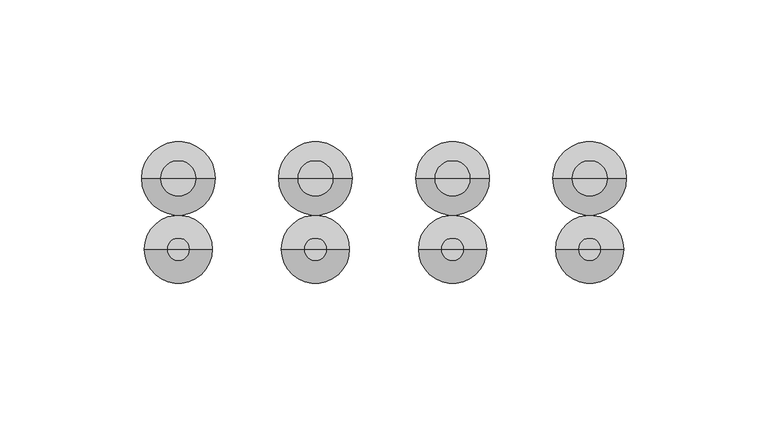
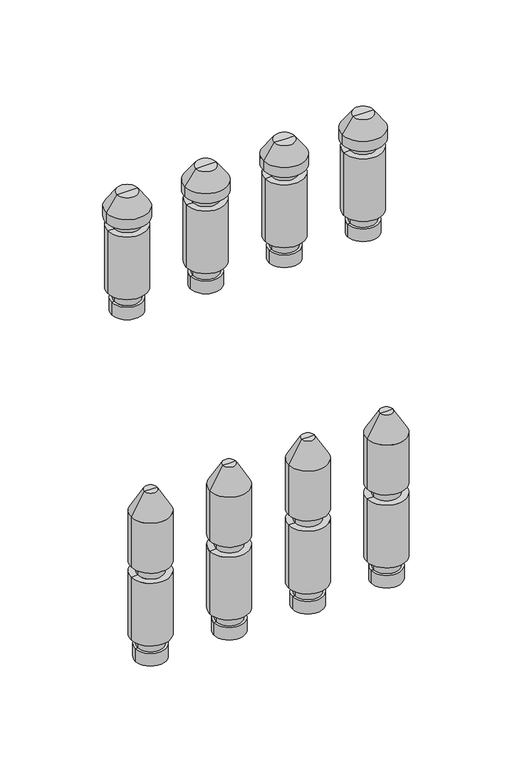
"""IFC4 building model written with IfcOpenShell, lengths in millimetres: valve geometry, PL AT_Manifold_FT-EV : 06 circuits."""

from ifc_helpers import new_model, si_unit, frame, origin, place, context, project, spatial, polyline, circle_curve, source, transform, mapped, element, save
from ifc_brep_helpers import plane_surface, cylinder_surface, revolved_surface, advanced_brep


def valve_0c7f9d95(model_context):
    return source(origin(), model_context, "Body", "AdvancedBrep", [
        advanced_brep(
        [(226.1, 0.0, -35.11267), (245.1, 0.0, -35.11267), (235.6, 0.0, -35.11267), (226.1, 0.0, -27.0369646), (245.1, 0.0, -27.0369646), (227.6, 0.0, -27.0369646), (243.6, 0.0, -27.0369646), (227.6, 0.0, -20.330253), (243.6, 0.0, -20.330253), (223.6, 0.0, -20.330253), (247.6, 0.0, -20.330253), (223.6, 0.0, 20.330253), (247.6, 0.0, 20.330253), (227.6, 0.0, 20.330253), (243.6, 0.0, 20.330253), (227.6, 0.0, 27.0474786), (243.6, 0.0, 27.0474786), (223.6, 0.0, 27.0474786), (247.6, 0.0, 27.0474786), (223.6, 0.0, 59.4084325), (247.6, 0.0, 59.4084325), (231.6, 0.0, 73.264839), (239.6, 0.0, 73.264839), (235.6, 0.0, 73.264839)],
        [
            (0, 1, circle_curve(frame((235.6, 0.0, -35.11267), z_axis=(0.0, 0.0, -1.0), x_axis=(1.0, 0.0, 0.0)), 9.5)),
            (1, 2),
            (2, 0),
            (1, 0, circle_curve(frame((235.6, 0.0, -35.11267), z_axis=(0.0, 0.0, -1.0), x_axis=(1.0, 0.0, 0.0)), 9.5)),
            (3, 4, circle_curve(frame((235.6, 0.0, -27.0369646), z_axis=(0.0, 0.0, -1.0), x_axis=(1.0, 0.0, 0.0)), 9.5)),
            (4, 1),
            (0, 3),
            (4, 3, circle_curve(frame((235.6, 0.0, -27.0369646), z_axis=(0.0, 0.0, -1.0), x_axis=(1.0, 0.0, 0.0)), 9.5)),
            (5, 6, circle_curve(frame((235.6, 0.0, -27.0369646), z_axis=(0.0, 0.0, -1.0), x_axis=(1.0, 0.0, 0.0)), 8.0)),
            (6, 4),
            (3, 5),
            (6, 5, circle_curve(frame((235.6, 0.0, -27.0369646), z_axis=(0.0, 0.0, -1.0), x_axis=(1.0, 0.0, 0.0)), 8.0)),
            (7, 8, circle_curve(frame((235.6, 0.0, -20.330253), z_axis=(0.0, 0.0, -1.0), x_axis=(1.0, 0.0, 0.0)), 8.0)),
            (8, 6),
            (5, 7),
            (8, 7, circle_curve(frame((235.6, 0.0, -20.330253), z_axis=(0.0, 0.0, -1.0), x_axis=(1.0, 0.0, 0.0)), 8.0)),
            (9, 10, circle_curve(frame((235.6, 0.0, -20.330253), z_axis=(0.0, 0.0, -1.0), x_axis=(1.0, 0.0, 0.0)), 12.0)),
            (10, 8),
            (7, 9),
            (10, 9, circle_curve(frame((235.6, 0.0, -20.330253), z_axis=(0.0, 0.0, -1.0), x_axis=(1.0, 0.0, 0.0)), 12.0)),
            (11, 12, circle_curve(frame((235.6, 0.0, 20.330253), z_axis=(0.0, 0.0, -1.0), x_axis=(1.0, 0.0, 0.0)), 12.0)),
            (12, 10),
            (9, 11),
            (12, 11, circle_curve(frame((235.6, 0.0, 20.330253), z_axis=(0.0, 0.0, -1.0), x_axis=(1.0, 0.0, 0.0)), 12.0)),
            (13, 14, circle_curve(frame((235.6, 0.0, 20.330253), z_axis=(0.0, 0.0, -1.0), x_axis=(1.0, 0.0, 0.0)), 8.0)),
            (14, 12),
            (11, 13),
            (14, 13, circle_curve(frame((235.6, 0.0, 20.330253), z_axis=(0.0, 0.0, -1.0), x_axis=(1.0, 0.0, 0.0)), 8.0)),
            (15, 16, circle_curve(frame((235.6, 0.0, 27.0474786), z_axis=(0.0, 0.0, -1.0), x_axis=(1.0, 0.0, 0.0)), 8.0)),
            (16, 14),
            (13, 15),
            (16, 15, circle_curve(frame((235.6, 0.0, 27.0474786), z_axis=(0.0, 0.0, -1.0), x_axis=(1.0, 0.0, 0.0)), 8.0)),
            (17, 18, circle_curve(frame((235.6, 0.0, 27.0474786), z_axis=(0.0, 0.0, -1.0), x_axis=(1.0, 0.0, 0.0)), 12.0)),
            (18, 16),
            (15, 17),
            (18, 17, circle_curve(frame((235.6, 0.0, 27.0474786), z_axis=(0.0, 0.0, -1.0), x_axis=(1.0, 0.0, 0.0)), 12.0)),
            (19, 20, circle_curve(frame((235.6, 0.0, 59.4084325), z_axis=(0.0, 0.0, -1.0), x_axis=(1.0, 0.0, 0.0)), 12.0)),
            (20, 18),
            (17, 19),
            (20, 19, circle_curve(frame((235.6, 0.0, 59.4084325), z_axis=(0.0, 0.0, -1.0), x_axis=(1.0, 0.0, 0.0)), 12.0)),
            (21, 22, circle_curve(frame((235.6, 0.0, 73.264839), z_axis=(0.0, 0.0, -1.0), x_axis=(1.0, 0.0, 0.0)), 4.0)),
            (22, 20),
            (19, 21),
            (22, 21, circle_curve(frame((235.6, 0.0, 73.264839), z_axis=(0.0, 0.0, -1.0), x_axis=(1.0, 0.0, 0.0)), 4.0)),
            (23, 22),
            (21, 23),
        ],
        [
            plane_surface(frame((235.6, 0.0, -35.11267), z_axis=(0.0, 0.0, -1.0), x_axis=(1.0, 0.0, 0.0))),
            cylinder_surface(frame((235.6, 0.0, 58.264839), z_axis=(0.0, 0.0, 1.0), x_axis=(1.0, 0.0, 0.0)), 9.5),
            plane_surface(frame((235.6, 0.0, -27.0369646), z_axis=(0.0, 0.0, 1.0), x_axis=(1.0, 0.0, 0.0))),
            cylinder_surface(frame((235.6, 0.0, 58.264839), z_axis=(0.0, 0.0, 1.0), x_axis=(1.0, 0.0, 0.0)), 8.0),
            plane_surface(frame((235.6, 0.0, -20.330253), z_axis=(0.0, 0.0, -1.0), x_axis=(1.0, 0.0, 0.0))),
            cylinder_surface(frame((235.6, 0.0, 58.264839), z_axis=(0.0, 0.0, 1.0), x_axis=(1.0, 0.0, 0.0)), 12.0),
            plane_surface(frame((235.6, 0.0, 20.330253), z_axis=(0.0, 0.0, 1.0), x_axis=(1.0, 0.0, 0.0))),
            plane_surface(frame((235.6, 0.0, 27.0474786), z_axis=(0.0, 0.0, -1.0), x_axis=(1.0, 0.0, 0.0))),
            revolved_surface(polyline([(247.6, 0.0, 59.4084325), (239.6, 0.0, 73.264839)]), (235.6, 0.0, 58.264839), (0.0, 0.0, 1.0)),
            plane_surface(frame((235.6, 0.0, 73.264839), z_axis=(0.0, 0.0, 1.0), x_axis=(1.0, 0.0, 0.0))),
        ],
        [
            (0, [[1, 2, 3]]),
            (0, [[4, -3, -2]]),
            (1, [[5, 6, -1, 7]]),
            (1, [[8, -7, -4, -6]]),
            (2, [[9, 10, -5, 11]]),
            (2, [[12, -11, -8, -10]]),
            (3, [[13, 14, -9, 15]]),
            (3, [[16, -15, -12, -14]]),
            (4, [[17, 18, -13, 19]]),
            (4, [[20, -19, -16, -18]]),
            (5, [[21, 22, -17, 23]]),
            (5, [[24, -23, -20, -22]]),
            (6, [[25, 26, -21, 27]]),
            (6, [[28, -27, -24, -26]]),
            (3, [[29, 30, -25, 31]]),
            (3, [[32, -31, -28, -30]]),
            (7, [[33, 34, -29, 35]]),
            (7, [[36, -35, -32, -34]]),
            (5, [[37, 38, -33, 39]]),
            (5, [[40, -39, -36, -38]]),
            (8, [[41, 42, -37, 43]]),
            (8, [[44, -43, -40, -42]]),
            (9, [[45, -41, 46]]),
            (9, [[-46, -44, -45]]),
        ],
    ),
        advanced_brep(
        [(177.7, 0.0, -35.11267), (196.7, 0.0, -35.11267), (187.2, 0.0, -35.11267), (177.7, 0.0, -27.0369646), (196.7, 0.0, -27.0369646), (179.2, 0.0, -27.0369646), (195.2, 0.0, -27.0369646), (179.2, 0.0, -20.330253), (195.2, 0.0, -20.330253), (175.2, 0.0, -20.330253), (199.2, 0.0, -20.330253), (175.2, 0.0, 20.330253), (199.2, 0.0, 20.330253), (179.2, 0.0, 20.330253), (195.2, 0.0, 20.330253), (179.2, 0.0, 27.0474786), (195.2, 0.0, 27.0474786), (175.2, 0.0, 27.0474786), (199.2, 0.0, 27.0474786), (175.2, 0.0, 59.4084325), (199.2, 0.0, 59.4084325), (183.2, 0.0, 73.264839), (191.2, 0.0, 73.264839), (187.2, 0.0, 73.264839)],
        [
            (0, 1, circle_curve(frame((187.2, 0.0, -35.11267), z_axis=(0.0, 0.0, -1.0), x_axis=(1.0, 0.0, 0.0)), 9.5)),
            (1, 2),
            (2, 0),
            (1, 0, circle_curve(frame((187.2, 0.0, -35.11267), z_axis=(0.0, 0.0, -1.0), x_axis=(1.0, 0.0, 0.0)), 9.5)),
            (3, 4, circle_curve(frame((187.2, 0.0, -27.0369646), z_axis=(0.0, 0.0, -1.0), x_axis=(1.0, 0.0, 0.0)), 9.5)),
            (4, 1),
            (0, 3),
            (4, 3, circle_curve(frame((187.2, 0.0, -27.0369646), z_axis=(0.0, 0.0, -1.0), x_axis=(1.0, 0.0, 0.0)), 9.5)),
            (5, 6, circle_curve(frame((187.2, 0.0, -27.0369646), z_axis=(0.0, 0.0, -1.0), x_axis=(1.0, 0.0, 0.0)), 8.0)),
            (6, 4),
            (3, 5),
            (6, 5, circle_curve(frame((187.2, 0.0, -27.0369646), z_axis=(0.0, 0.0, -1.0), x_axis=(1.0, 0.0, 0.0)), 8.0)),
            (7, 8, circle_curve(frame((187.2, 0.0, -20.330253), z_axis=(0.0, 0.0, -1.0), x_axis=(1.0, 0.0, 0.0)), 8.0)),
            (8, 6),
            (5, 7),
            (8, 7, circle_curve(frame((187.2, 0.0, -20.330253), z_axis=(0.0, 0.0, -1.0), x_axis=(1.0, 0.0, 0.0)), 8.0)),
            (9, 10, circle_curve(frame((187.2, 0.0, -20.330253), z_axis=(0.0, 0.0, -1.0), x_axis=(1.0, 0.0, 0.0)), 12.0)),
            (10, 8),
            (7, 9),
            (10, 9, circle_curve(frame((187.2, 0.0, -20.330253), z_axis=(0.0, 0.0, -1.0), x_axis=(1.0, 0.0, 0.0)), 12.0)),
            (11, 12, circle_curve(frame((187.2, 0.0, 20.330253), z_axis=(0.0, 0.0, -1.0), x_axis=(1.0, 0.0, 0.0)), 12.0)),
            (12, 10),
            (9, 11),
            (12, 11, circle_curve(frame((187.2, 0.0, 20.330253), z_axis=(0.0, 0.0, -1.0), x_axis=(1.0, 0.0, 0.0)), 12.0)),
            (13, 14, circle_curve(frame((187.2, 0.0, 20.330253), z_axis=(0.0, 0.0, -1.0), x_axis=(1.0, 0.0, 0.0)), 8.0)),
            (14, 12),
            (11, 13),
            (14, 13, circle_curve(frame((187.2, 0.0, 20.330253), z_axis=(0.0, 0.0, -1.0), x_axis=(1.0, 0.0, 0.0)), 8.0)),
            (15, 16, circle_curve(frame((187.2, 0.0, 27.0474786), z_axis=(0.0, 0.0, -1.0), x_axis=(1.0, 0.0, 0.0)), 8.0)),
            (16, 14),
            (13, 15),
            (16, 15, circle_curve(frame((187.2, 0.0, 27.0474786), z_axis=(0.0, 0.0, -1.0), x_axis=(1.0, 0.0, 0.0)), 8.0)),
            (17, 18, circle_curve(frame((187.2, 0.0, 27.0474786), z_axis=(0.0, 0.0, -1.0), x_axis=(1.0, 0.0, 0.0)), 12.0)),
            (18, 16),
            (15, 17),
            (18, 17, circle_curve(frame((187.2, 0.0, 27.0474786), z_axis=(0.0, 0.0, -1.0), x_axis=(1.0, 0.0, 0.0)), 12.0)),
            (19, 20, circle_curve(frame((187.2, 0.0, 59.4084325), z_axis=(0.0, 0.0, -1.0), x_axis=(1.0, 0.0, 0.0)), 12.0)),
            (20, 18),
            (17, 19),
            (20, 19, circle_curve(frame((187.2, 0.0, 59.4084325), z_axis=(0.0, 0.0, -1.0), x_axis=(1.0, 0.0, 0.0)), 12.0)),
            (21, 22, circle_curve(frame((187.2, 0.0, 73.264839), z_axis=(0.0, 0.0, -1.0), x_axis=(1.0, 0.0, 0.0)), 4.0)),
            (22, 20),
            (19, 21),
            (22, 21, circle_curve(frame((187.2, 0.0, 73.264839), z_axis=(0.0, 0.0, -1.0), x_axis=(1.0, 0.0, 0.0)), 4.0)),
            (23, 22),
            (21, 23),
        ],
        [
            plane_surface(frame((187.2, 0.0, -35.11267), z_axis=(0.0, 0.0, -1.0), x_axis=(1.0, 0.0, 0.0))),
            cylinder_surface(frame((187.2, 0.0, 58.264839), z_axis=(0.0, 0.0, 1.0), x_axis=(1.0, 0.0, 0.0)), 9.5),
            plane_surface(frame((187.2, 0.0, -27.0369646), z_axis=(0.0, 0.0, 1.0), x_axis=(1.0, 0.0, 0.0))),
            cylinder_surface(frame((187.2, 0.0, 58.264839), z_axis=(0.0, 0.0, 1.0), x_axis=(1.0, 0.0, 0.0)), 8.0),
            plane_surface(frame((187.2, 0.0, -20.330253), z_axis=(0.0, 0.0, -1.0), x_axis=(1.0, 0.0, 0.0))),
            cylinder_surface(frame((187.2, 0.0, 58.264839), z_axis=(0.0, 0.0, 1.0), x_axis=(1.0, 0.0, 0.0)), 12.0),
            plane_surface(frame((187.2, 0.0, 20.330253), z_axis=(0.0, 0.0, 1.0), x_axis=(1.0, 0.0, 0.0))),
            plane_surface(frame((187.2, 0.0, 27.0474786), z_axis=(0.0, 0.0, -1.0), x_axis=(1.0, 0.0, 0.0))),
            revolved_surface(polyline([(199.2, 0.0, 59.4084325), (191.2, 0.0, 73.264839)]), (187.2, 0.0, 58.264839), (0.0, 0.0, 1.0)),
            plane_surface(frame((187.2, 0.0, 73.264839), z_axis=(0.0, 0.0, 1.0), x_axis=(1.0, 0.0, 0.0))),
        ],
        [
            (0, [[1, 2, 3]]),
            (0, [[4, -3, -2]]),
            (1, [[5, 6, -1, 7]]),
            (1, [[8, -7, -4, -6]]),
            (2, [[9, 10, -5, 11]]),
            (2, [[12, -11, -8, -10]]),
            (3, [[13, 14, -9, 15]]),
            (3, [[16, -15, -12, -14]]),
            (4, [[17, 18, -13, 19]]),
            (4, [[20, -19, -16, -18]]),
            (5, [[21, 22, -17, 23]]),
            (5, [[24, -23, -20, -22]]),
            (6, [[25, 26, -21, 27]]),
            (6, [[28, -27, -24, -26]]),
            (3, [[29, 30, -25, 31]]),
            (3, [[32, -31, -28, -30]]),
            (7, [[33, 34, -29, 35]]),
            (7, [[36, -35, -32, -34]]),
            (5, [[37, 38, -33, 39]]),
            (5, [[40, -39, -36, -38]]),
            (8, [[41, 42, -37, 43]]),
            (8, [[44, -43, -40, -42]]),
            (9, [[45, -41, 46]]),
            (9, [[-46, -44, -45]]),
        ],
    ),
        advanced_brep(
        [(129.3, 0.0, -35.11267), (148.3, 0.0, -35.11267), (138.8, 0.0, -35.11267), (129.3, 0.0, -27.0369646), (148.3, 0.0, -27.0369646), (130.8, 0.0, -27.0369646), (146.8, 0.0, -27.0369646), (130.8, 0.0, -20.330253), (146.8, 0.0, -20.330253), (126.8, 0.0, -20.330253), (150.8, 0.0, -20.330253), (126.8, 0.0, 20.330253), (150.8, 0.0, 20.330253), (130.8, 0.0, 20.330253), (146.8, 0.0, 20.330253), (130.8, 0.0, 27.0474786), (146.8, 0.0, 27.0474786), (126.8, 0.0, 27.0474786), (150.8, 0.0, 27.0474786), (126.8, 0.0, 59.4084325), (150.8, 0.0, 59.4084325), (134.8, 0.0, 73.264839), (142.8, 0.0, 73.264839), (138.8, 0.0, 73.264839)],
        [
            (0, 1, circle_curve(frame((138.8, 0.0, -35.11267), z_axis=(0.0, 0.0, -1.0), x_axis=(1.0, 0.0, 0.0)), 9.5)),
            (1, 2),
            (2, 0),
            (1, 0, circle_curve(frame((138.8, 0.0, -35.11267), z_axis=(0.0, 0.0, -1.0), x_axis=(1.0, 0.0, 0.0)), 9.5)),
            (3, 4, circle_curve(frame((138.8, 0.0, -27.0369646), z_axis=(0.0, 0.0, -1.0), x_axis=(1.0, 0.0, 0.0)), 9.5)),
            (4, 1),
            (0, 3),
            (4, 3, circle_curve(frame((138.8, 0.0, -27.0369646), z_axis=(0.0, 0.0, -1.0), x_axis=(1.0, 0.0, 0.0)), 9.5)),
            (5, 6, circle_curve(frame((138.8, 0.0, -27.0369646), z_axis=(0.0, 0.0, -1.0), x_axis=(1.0, 0.0, 0.0)), 8.0)),
            (6, 4),
            (3, 5),
            (6, 5, circle_curve(frame((138.8, 0.0, -27.0369646), z_axis=(0.0, 0.0, -1.0), x_axis=(1.0, 0.0, 0.0)), 8.0)),
            (7, 8, circle_curve(frame((138.8, 0.0, -20.330253), z_axis=(0.0, 0.0, -1.0), x_axis=(1.0, 0.0, 0.0)), 8.0)),
            (8, 6),
            (5, 7),
            (8, 7, circle_curve(frame((138.8, 0.0, -20.330253), z_axis=(0.0, 0.0, -1.0), x_axis=(1.0, 0.0, 0.0)), 8.0)),
            (9, 10, circle_curve(frame((138.8, 0.0, -20.330253), z_axis=(0.0, 0.0, -1.0), x_axis=(1.0, 0.0, 0.0)), 12.0)),
            (10, 8),
            (7, 9),
            (10, 9, circle_curve(frame((138.8, 0.0, -20.330253), z_axis=(0.0, 0.0, -1.0), x_axis=(1.0, 0.0, 0.0)), 12.0)),
            (11, 12, circle_curve(frame((138.8, 0.0, 20.330253), z_axis=(0.0, 0.0, -1.0), x_axis=(1.0, 0.0, 0.0)), 12.0)),
            (12, 10),
            (9, 11),
            (12, 11, circle_curve(frame((138.8, 0.0, 20.330253), z_axis=(0.0, 0.0, -1.0), x_axis=(1.0, 0.0, 0.0)), 12.0)),
            (13, 14, circle_curve(frame((138.8, 0.0, 20.330253), z_axis=(0.0, 0.0, -1.0), x_axis=(1.0, 0.0, 0.0)), 8.0)),
            (14, 12),
            (11, 13),
            (14, 13, circle_curve(frame((138.8, 0.0, 20.330253), z_axis=(0.0, 0.0, -1.0), x_axis=(1.0, 0.0, 0.0)), 8.0)),
            (15, 16, circle_curve(frame((138.8, 0.0, 27.0474786), z_axis=(0.0, 0.0, -1.0), x_axis=(1.0, 0.0, 0.0)), 8.0)),
            (16, 14),
            (13, 15),
            (16, 15, circle_curve(frame((138.8, 0.0, 27.0474786), z_axis=(0.0, 0.0, -1.0), x_axis=(1.0, 0.0, 0.0)), 8.0)),
            (17, 18, circle_curve(frame((138.8, 0.0, 27.0474786), z_axis=(0.0, 0.0, -1.0), x_axis=(1.0, 0.0, 0.0)), 12.0)),
            (18, 16),
            (15, 17),
            (18, 17, circle_curve(frame((138.8, 0.0, 27.0474786), z_axis=(0.0, 0.0, -1.0), x_axis=(1.0, 0.0, 0.0)), 12.0)),
            (19, 20, circle_curve(frame((138.8, 0.0, 59.4084325), z_axis=(0.0, 0.0, -1.0), x_axis=(1.0, 0.0, 0.0)), 12.0)),
            (20, 18),
            (17, 19),
            (20, 19, circle_curve(frame((138.8, 0.0, 59.4084325), z_axis=(0.0, 0.0, -1.0), x_axis=(1.0, 0.0, 0.0)), 12.0)),
            (21, 22, circle_curve(frame((138.8, 0.0, 73.264839), z_axis=(0.0, 0.0, -1.0), x_axis=(1.0, 0.0, 0.0)), 4.0)),
            (22, 20),
            (19, 21),
            (22, 21, circle_curve(frame((138.8, 0.0, 73.264839), z_axis=(0.0, 0.0, -1.0), x_axis=(1.0, 0.0, 0.0)), 4.0)),
            (23, 22),
            (21, 23),
        ],
        [
            plane_surface(frame((138.8, 0.0, -35.11267), z_axis=(0.0, 0.0, -1.0), x_axis=(1.0, 0.0, 0.0))),
            cylinder_surface(frame((138.8, 0.0, 58.264839), z_axis=(0.0, 0.0, 1.0), x_axis=(1.0, 0.0, 0.0)), 9.5),
            plane_surface(frame((138.8, 0.0, -27.0369646), z_axis=(0.0, 0.0, 1.0), x_axis=(1.0, 0.0, 0.0))),
            cylinder_surface(frame((138.8, 0.0, 58.264839), z_axis=(0.0, 0.0, 1.0), x_axis=(1.0, 0.0, 0.0)), 8.0),
            plane_surface(frame((138.8, 0.0, -20.330253), z_axis=(0.0, 0.0, -1.0), x_axis=(1.0, 0.0, 0.0))),
            cylinder_surface(frame((138.8, 0.0, 58.264839), z_axis=(0.0, 0.0, 1.0), x_axis=(1.0, 0.0, 0.0)), 12.0),
            plane_surface(frame((138.8, 0.0, 20.330253), z_axis=(0.0, 0.0, 1.0), x_axis=(1.0, 0.0, 0.0))),
            plane_surface(frame((138.8, 0.0, 27.0474786), z_axis=(0.0, 0.0, -1.0), x_axis=(1.0, 0.0, 0.0))),
            revolved_surface(polyline([(150.8, 0.0, 59.4084325), (142.8, 0.0, 73.264839)]), (138.8, 0.0, 58.264839), (0.0, 0.0, 1.0)),
            plane_surface(frame((138.8, 0.0, 73.264839), z_axis=(0.0, 0.0, 1.0), x_axis=(1.0, 0.0, 0.0))),
        ],
        [
            (0, [[1, 2, 3]]),
            (0, [[4, -3, -2]]),
            (1, [[5, 6, -1, 7]]),
            (1, [[8, -7, -4, -6]]),
            (2, [[9, 10, -5, 11]]),
            (2, [[12, -11, -8, -10]]),
            (3, [[13, 14, -9, 15]]),
            (3, [[16, -15, -12, -14]]),
            (4, [[17, 18, -13, 19]]),
            (4, [[20, -19, -16, -18]]),
            (5, [[21, 22, -17, 23]]),
            (5, [[24, -23, -20, -22]]),
            (6, [[25, 26, -21, 27]]),
            (6, [[28, -27, -24, -26]]),
            (3, [[29, 30, -25, 31]]),
            (3, [[32, -31, -28, -30]]),
            (7, [[33, 34, -29, 35]]),
            (7, [[36, -35, -32, -34]]),
            (5, [[37, 38, -33, 39]]),
            (5, [[40, -39, -36, -38]]),
            (8, [[41, 42, -37, 43]]),
            (8, [[44, -43, -40, -42]]),
            (9, [[45, -41, 46]]),
            (9, [[-46, -44, -45]]),
        ],
    ),
        advanced_brep(
        [(226.1, 25.0, 174.88733), (245.1, 25.0, 174.88733), (235.6, 25.0, 174.88733), (226.1, 25.0, 182.9630354), (245.1, 25.0, 182.9630354), (227.6, 25.0, 182.9630354), (243.6, 25.0, 182.9630354), (227.6, 25.0, 189.669747), (243.6, 25.0, 189.669747), (223.6, 25.0, 189.669747), (247.6, 25.0, 189.669747), (223.6, 25.0, 230.330253), (247.6, 25.0, 230.330253), (227.6, 25.0, 230.330253), (243.6, 25.0, 230.330253), (227.6, 25.0, 236.0474786), (243.6, 25.0, 236.0474786), (222.6, 25.0, 236.0474786), (248.6, 25.0, 236.0474786), (222.6, 25.0, 242.337955), (248.6, 25.0, 242.337955), (229.2551779, 25.0, 251.842534), (241.9448221, 25.0, 251.842534), (235.6, 25.0, 251.842534)],
        [
            (0, 1, circle_curve(frame((235.6, 25.0, 174.88733), z_axis=(0.0, 0.0, -1.0), x_axis=(1.0, 0.0, 0.0)), 9.5)),
            (1, 2),
            (2, 0),
            (1, 0, circle_curve(frame((235.6, 25.0, 174.88733), z_axis=(0.0, 0.0, -1.0), x_axis=(1.0, 0.0, 0.0)), 9.5)),
            (3, 4, circle_curve(frame((235.6, 25.0, 182.9630354), z_axis=(0.0, 0.0, -1.0), x_axis=(1.0, 0.0, 0.0)), 9.5)),
            (4, 1),
            (0, 3),
            (4, 3, circle_curve(frame((235.6, 25.0, 182.9630354), z_axis=(0.0, 0.0, -1.0), x_axis=(1.0, 0.0, 0.0)), 9.5)),
            (5, 6, circle_curve(frame((235.6, 25.0, 182.9630354), z_axis=(0.0, 0.0, -1.0), x_axis=(1.0, 0.0, 0.0)), 8.0)),
            (6, 4),
            (3, 5),
            (6, 5, circle_curve(frame((235.6, 25.0, 182.9630354), z_axis=(0.0, 0.0, -1.0), x_axis=(1.0, 0.0, 0.0)), 8.0)),
            (7, 8, circle_curve(frame((235.6, 25.0, 189.669747), z_axis=(0.0, 0.0, -1.0), x_axis=(1.0, 0.0, 0.0)), 8.0)),
            (8, 6),
            (5, 7),
            (8, 7, circle_curve(frame((235.6, 25.0, 189.669747), z_axis=(0.0, 0.0, -1.0), x_axis=(1.0, 0.0, 0.0)), 8.0)),
            (9, 10, circle_curve(frame((235.6, 25.0, 189.669747), z_axis=(0.0, 0.0, -1.0), x_axis=(1.0, 0.0, 0.0)), 12.0)),
            (10, 8),
            (7, 9),
            (10, 9, circle_curve(frame((235.6, 25.0, 189.669747), z_axis=(0.0, 0.0, -1.0), x_axis=(1.0, 0.0, 0.0)), 12.0)),
            (11, 12, circle_curve(frame((235.6, 25.0, 230.330253), z_axis=(0.0, 0.0, -1.0), x_axis=(1.0, 0.0, 0.0)), 12.0)),
            (12, 10),
            (9, 11),
            (12, 11, circle_curve(frame((235.6, 25.0, 230.330253), z_axis=(0.0, 0.0, -1.0), x_axis=(1.0, 0.0, 0.0)), 12.0)),
            (13, 14, circle_curve(frame((235.6, 25.0, 230.330253), z_axis=(0.0, 0.0, -1.0), x_axis=(1.0, 0.0, 0.0)), 8.0)),
            (14, 12),
            (11, 13),
            (14, 13, circle_curve(frame((235.6, 25.0, 230.330253), z_axis=(0.0, 0.0, -1.0), x_axis=(1.0, 0.0, 0.0)), 8.0)),
            (15, 16, circle_curve(frame((235.6, 25.0, 236.0474786), z_axis=(0.0, 0.0, -1.0), x_axis=(1.0, 0.0, 0.0)), 8.0)),
            (16, 14),
            (13, 15),
            (16, 15, circle_curve(frame((235.6, 25.0, 236.0474786), z_axis=(0.0, 0.0, -1.0), x_axis=(1.0, 0.0, 0.0)), 8.0)),
            (17, 18, circle_curve(frame((235.6, 25.0, 236.0474786), z_axis=(0.0, 0.0, -1.0), x_axis=(1.0, 0.0, 0.0)), 13.0)),
            (18, 16),
            (15, 17),
            (18, 17, circle_curve(frame((235.6, 25.0, 236.0474786), z_axis=(0.0, 0.0, -1.0), x_axis=(1.0, 0.0, 0.0)), 13.0)),
            (19, 20, circle_curve(frame((235.6, 25.0, 242.337955), z_axis=(0.0, 0.0, -1.0), x_axis=(1.0, 0.0, 0.0)), 13.0)),
            (20, 18),
            (17, 19),
            (20, 19, circle_curve(frame((235.6, 25.0, 242.337955), z_axis=(0.0, 0.0, -1.0), x_axis=(1.0, 0.0, 0.0)), 13.0)),
            (21, 22, circle_curve(frame((235.6, 25.0, 251.842534), z_axis=(0.0, 0.0, -1.0), x_axis=(1.0, 0.0, 0.0)), 6.3448221)),
            (22, 20),
            (19, 21),
            (22, 21, circle_curve(frame((235.6, 25.0, 251.842534), z_axis=(0.0, 0.0, -1.0), x_axis=(1.0, 0.0, 0.0)), 6.3448221)),
            (23, 22),
            (21, 23),
        ],
        [
            plane_surface(frame((235.6, 25.0, 174.88733), z_axis=(0.0, 0.0, -1.0), x_axis=(1.0, 0.0, 0.0))),
            cylinder_surface(frame((235.6, 25.0, 247.7026565), z_axis=(0.0, 0.0, 1.0), x_axis=(1.0, 0.0, 0.0)), 9.5),
            plane_surface(frame((235.6, 25.0, 182.9630354), z_axis=(0.0, 0.0, 1.0), x_axis=(1.0, 0.0, 0.0))),
            cylinder_surface(frame((235.6, 25.0, 247.7026565), z_axis=(0.0, 0.0, 1.0), x_axis=(1.0, 0.0, 0.0)), 8.0),
            plane_surface(frame((235.6, 25.0, 189.669747), z_axis=(0.0, 0.0, -1.0), x_axis=(1.0, 0.0, 0.0))),
            cylinder_surface(frame((235.6, 25.0, 247.7026565), z_axis=(0.0, 0.0, 1.0), x_axis=(1.0, 0.0, 0.0)), 12.0),
            plane_surface(frame((235.6, 25.0, 230.330253), z_axis=(0.0, 0.0, 1.0), x_axis=(1.0, 0.0, 0.0))),
            plane_surface(frame((235.6, 25.0, 236.0474786), z_axis=(0.0, 0.0, -1.0), x_axis=(1.0, 0.0, 0.0))),
            cylinder_surface(frame((235.6, 25.0, 247.7026565), z_axis=(0.0, 0.0, 1.0), x_axis=(1.0, 0.0, 0.0)), 13.0),
            revolved_surface(polyline([(248.6, 25.0, 242.337955), (241.9448221, 25.0, 251.842534)]), (235.6, 25.0, 247.7026565), (0.0, 0.0, 1.0)),
            plane_surface(frame((235.6, 25.0, 251.842534), z_axis=(0.0, 0.0, 1.0), x_axis=(1.0, 0.0, 0.0))),
        ],
        [
            (0, [[1, 2, 3]]),
            (0, [[4, -3, -2]]),
            (1, [[5, 6, -1, 7]]),
            (1, [[8, -7, -4, -6]]),
            (2, [[9, 10, -5, 11]]),
            (2, [[12, -11, -8, -10]]),
            (3, [[13, 14, -9, 15]]),
            (3, [[16, -15, -12, -14]]),
            (4, [[17, 18, -13, 19]]),
            (4, [[20, -19, -16, -18]]),
            (5, [[21, 22, -17, 23]]),
            (5, [[24, -23, -20, -22]]),
            (6, [[25, 26, -21, 27]]),
            (6, [[28, -27, -24, -26]]),
            (3, [[29, 30, -25, 31]]),
            (3, [[32, -31, -28, -30]]),
            (7, [[33, 34, -29, 35]]),
            (7, [[36, -35, -32, -34]]),
            (8, [[37, 38, -33, 39]]),
            (8, [[40, -39, -36, -38]]),
            (9, [[41, 42, -37, 43]]),
            (9, [[44, -43, -40, -42]]),
            (10, [[45, -41, 46]]),
            (10, [[-46, -44, -45]]),
        ],
    ),
        advanced_brep(
        [(177.7, 25.0, 174.88733), (196.7, 25.0, 174.88733), (187.2, 25.0, 174.88733), (177.7, 25.0, 182.9630354), (196.7, 25.0, 182.9630354), (179.2, 25.0, 182.9630354), (195.2, 25.0, 182.9630354), (179.2, 25.0, 189.669747), (195.2, 25.0, 189.669747), (175.2, 25.0, 189.669747), (199.2, 25.0, 189.669747), (175.2, 25.0, 230.330253), (199.2, 25.0, 230.330253), (179.2, 25.0, 230.330253), (195.2, 25.0, 230.330253), (179.2, 25.0, 236.0474786), (195.2, 25.0, 236.0474786), (174.2, 25.0, 236.0474786), (200.2, 25.0, 236.0474786), (174.2, 25.0, 242.337955), (200.2, 25.0, 242.337955), (180.8551779, 25.0, 251.842534), (193.5448221, 25.0, 251.842534), (187.2, 25.0, 251.842534)],
        [
            (0, 1, circle_curve(frame((187.2, 25.0, 174.88733), z_axis=(0.0, 0.0, -1.0), x_axis=(1.0, 0.0, 0.0)), 9.5)),
            (1, 2),
            (2, 0),
            (1, 0, circle_curve(frame((187.2, 25.0, 174.88733), z_axis=(0.0, 0.0, -1.0), x_axis=(1.0, 0.0, 0.0)), 9.5)),
            (3, 4, circle_curve(frame((187.2, 25.0, 182.9630354), z_axis=(0.0, 0.0, -1.0), x_axis=(1.0, 0.0, 0.0)), 9.5)),
            (4, 1),
            (0, 3),
            (4, 3, circle_curve(frame((187.2, 25.0, 182.9630354), z_axis=(0.0, 0.0, -1.0), x_axis=(1.0, 0.0, 0.0)), 9.5)),
            (5, 6, circle_curve(frame((187.2, 25.0, 182.9630354), z_axis=(0.0, 0.0, -1.0), x_axis=(1.0, 0.0, 0.0)), 8.0)),
            (6, 4),
            (3, 5),
            (6, 5, circle_curve(frame((187.2, 25.0, 182.9630354), z_axis=(0.0, 0.0, -1.0), x_axis=(1.0, 0.0, 0.0)), 8.0)),
            (7, 8, circle_curve(frame((187.2, 25.0, 189.669747), z_axis=(0.0, 0.0, -1.0), x_axis=(1.0, 0.0, 0.0)), 8.0)),
            (8, 6),
            (5, 7),
            (8, 7, circle_curve(frame((187.2, 25.0, 189.669747), z_axis=(0.0, 0.0, -1.0), x_axis=(1.0, 0.0, 0.0)), 8.0)),
            (9, 10, circle_curve(frame((187.2, 25.0, 189.669747), z_axis=(0.0, 0.0, -1.0), x_axis=(1.0, 0.0, 0.0)), 12.0)),
            (10, 8),
            (7, 9),
            (10, 9, circle_curve(frame((187.2, 25.0, 189.669747), z_axis=(0.0, 0.0, -1.0), x_axis=(1.0, 0.0, 0.0)), 12.0)),
            (11, 12, circle_curve(frame((187.2, 25.0, 230.330253), z_axis=(0.0, 0.0, -1.0), x_axis=(1.0, 0.0, 0.0)), 12.0)),
            (12, 10),
            (9, 11),
            (12, 11, circle_curve(frame((187.2, 25.0, 230.330253), z_axis=(0.0, 0.0, -1.0), x_axis=(1.0, 0.0, 0.0)), 12.0)),
            (13, 14, circle_curve(frame((187.2, 25.0, 230.330253), z_axis=(0.0, 0.0, -1.0), x_axis=(1.0, 0.0, 0.0)), 8.0)),
            (14, 12),
            (11, 13),
            (14, 13, circle_curve(frame((187.2, 25.0, 230.330253), z_axis=(0.0, 0.0, -1.0), x_axis=(1.0, 0.0, 0.0)), 8.0)),
            (15, 16, circle_curve(frame((187.2, 25.0, 236.0474786), z_axis=(0.0, 0.0, -1.0), x_axis=(1.0, 0.0, 0.0)), 8.0)),
            (16, 14),
            (13, 15),
            (16, 15, circle_curve(frame((187.2, 25.0, 236.0474786), z_axis=(0.0, 0.0, -1.0), x_axis=(1.0, 0.0, 0.0)), 8.0)),
            (17, 18, circle_curve(frame((187.2, 25.0, 236.0474786), z_axis=(0.0, 0.0, -1.0), x_axis=(1.0, 0.0, 0.0)), 13.0)),
            (18, 16),
            (15, 17),
            (18, 17, circle_curve(frame((187.2, 25.0, 236.0474786), z_axis=(0.0, 0.0, -1.0), x_axis=(1.0, 0.0, 0.0)), 13.0)),
            (19, 20, circle_curve(frame((187.2, 25.0, 242.337955), z_axis=(0.0, 0.0, -1.0), x_axis=(1.0, 0.0, 0.0)), 13.0)),
            (20, 18),
            (17, 19),
            (20, 19, circle_curve(frame((187.2, 25.0, 242.337955), z_axis=(0.0, 0.0, -1.0), x_axis=(1.0, 0.0, 0.0)), 13.0)),
            (21, 22, circle_curve(frame((187.2, 25.0, 251.842534), z_axis=(0.0, 0.0, -1.0), x_axis=(1.0, 0.0, 0.0)), 6.3448221)),
            (22, 20),
            (19, 21),
            (22, 21, circle_curve(frame((187.2, 25.0, 251.842534), z_axis=(0.0, 0.0, -1.0), x_axis=(1.0, 0.0, 0.0)), 6.3448221)),
            (23, 22),
            (21, 23),
        ],
        [
            plane_surface(frame((187.2, 25.0, 174.88733), z_axis=(0.0, 0.0, -1.0), x_axis=(1.0, 0.0, 0.0))),
            cylinder_surface(frame((187.2, 25.0, 247.7026565), z_axis=(0.0, 0.0, 1.0), x_axis=(1.0, 0.0, 0.0)), 9.5),
            plane_surface(frame((187.2, 25.0, 182.9630354), z_axis=(0.0, 0.0, 1.0), x_axis=(1.0, 0.0, 0.0))),
            cylinder_surface(frame((187.2, 25.0, 247.7026565), z_axis=(0.0, 0.0, 1.0), x_axis=(1.0, 0.0, 0.0)), 8.0),
            plane_surface(frame((187.2, 25.0, 189.669747), z_axis=(0.0, 0.0, -1.0), x_axis=(1.0, 0.0, 0.0))),
            cylinder_surface(frame((187.2, 25.0, 247.7026565), z_axis=(0.0, 0.0, 1.0), x_axis=(1.0, 0.0, 0.0)), 12.0),
            plane_surface(frame((187.2, 25.0, 230.330253), z_axis=(0.0, 0.0, 1.0), x_axis=(1.0, 0.0, 0.0))),
            plane_surface(frame((187.2, 25.0, 236.0474786), z_axis=(0.0, 0.0, -1.0), x_axis=(1.0, 0.0, 0.0))),
            cylinder_surface(frame((187.2, 25.0, 247.7026565), z_axis=(0.0, 0.0, 1.0), x_axis=(1.0, 0.0, 0.0)), 13.0),
            revolved_surface(polyline([(200.2, 25.0, 242.337955), (193.5448221, 25.0, 251.842534)]), (187.2, 25.0, 247.7026565), (0.0, 0.0, 1.0)),
            plane_surface(frame((187.2, 25.0, 251.842534), z_axis=(0.0, 0.0, 1.0), x_axis=(1.0, 0.0, 0.0))),
        ],
        [
            (0, [[1, 2, 3]]),
            (0, [[4, -3, -2]]),
            (1, [[5, 6, -1, 7]]),
            (1, [[8, -7, -4, -6]]),
            (2, [[9, 10, -5, 11]]),
            (2, [[12, -11, -8, -10]]),
            (3, [[13, 14, -9, 15]]),
            (3, [[16, -15, -12, -14]]),
            (4, [[17, 18, -13, 19]]),
            (4, [[20, -19, -16, -18]]),
            (5, [[21, 22, -17, 23]]),
            (5, [[24, -23, -20, -22]]),
            (6, [[25, 26, -21, 27]]),
            (6, [[28, -27, -24, -26]]),
            (3, [[29, 30, -25, 31]]),
            (3, [[32, -31, -28, -30]]),
            (7, [[33, 34, -29, 35]]),
            (7, [[36, -35, -32, -34]]),
            (8, [[37, 38, -33, 39]]),
            (8, [[40, -39, -36, -38]]),
            (9, [[41, 42, -37, 43]]),
            (9, [[44, -43, -40, -42]]),
            (10, [[45, -41, 46]]),
            (10, [[-46, -44, -45]]),
        ],
    ),
        advanced_brep(
        [(129.3, 25.0, 174.88733), (148.3, 25.0, 174.88733), (138.8, 25.0, 174.88733), (129.3, 25.0, 182.9630354), (148.3, 25.0, 182.9630354), (130.8, 25.0, 182.9630354), (146.8, 25.0, 182.9630354), (130.8, 25.0, 189.669747), (146.8, 25.0, 189.669747), (126.8, 25.0, 189.669747), (150.8, 25.0, 189.669747), (126.8, 25.0, 230.330253), (150.8, 25.0, 230.330253), (130.8, 25.0, 230.330253), (146.8, 25.0, 230.330253), (130.8, 25.0, 236.0474786), (146.8, 25.0, 236.0474786), (125.8, 25.0, 236.0474786), (151.8, 25.0, 236.0474786), (125.8, 25.0, 242.337955), (151.8, 25.0, 242.337955), (132.4551779, 25.0, 251.842534), (145.1448221, 25.0, 251.842534), (138.8, 25.0, 251.842534)],
        [
            (0, 1, circle_curve(frame((138.8, 25.0, 174.88733), z_axis=(0.0, 0.0, -1.0), x_axis=(1.0, 0.0, 0.0)), 9.5)),
            (1, 2),
            (2, 0),
            (1, 0, circle_curve(frame((138.8, 25.0, 174.88733), z_axis=(0.0, 0.0, -1.0), x_axis=(1.0, 0.0, 0.0)), 9.5)),
            (3, 4, circle_curve(frame((138.8, 25.0, 182.9630354), z_axis=(0.0, 0.0, -1.0), x_axis=(1.0, 0.0, 0.0)), 9.5)),
            (4, 1),
            (0, 3),
            (4, 3, circle_curve(frame((138.8, 25.0, 182.9630354), z_axis=(0.0, 0.0, -1.0), x_axis=(1.0, 0.0, 0.0)), 9.5)),
            (5, 6, circle_curve(frame((138.8, 25.0, 182.9630354), z_axis=(0.0, 0.0, -1.0), x_axis=(1.0, 0.0, 0.0)), 8.0)),
            (6, 4),
            (3, 5),
            (6, 5, circle_curve(frame((138.8, 25.0, 182.9630354), z_axis=(0.0, 0.0, -1.0), x_axis=(1.0, 0.0, 0.0)), 8.0)),
            (7, 8, circle_curve(frame((138.8, 25.0, 189.669747), z_axis=(0.0, 0.0, -1.0), x_axis=(1.0, 0.0, 0.0)), 8.0)),
            (8, 6),
            (5, 7),
            (8, 7, circle_curve(frame((138.8, 25.0, 189.669747), z_axis=(0.0, 0.0, -1.0), x_axis=(1.0, 0.0, 0.0)), 8.0)),
            (9, 10, circle_curve(frame((138.8, 25.0, 189.669747), z_axis=(0.0, 0.0, -1.0), x_axis=(1.0, 0.0, 0.0)), 12.0)),
            (10, 8),
            (7, 9),
            (10, 9, circle_curve(frame((138.8, 25.0, 189.669747), z_axis=(0.0, 0.0, -1.0), x_axis=(1.0, 0.0, 0.0)), 12.0)),
            (11, 12, circle_curve(frame((138.8, 25.0, 230.330253), z_axis=(0.0, 0.0, -1.0), x_axis=(1.0, 0.0, 0.0)), 12.0)),
            (12, 10),
            (9, 11),
            (12, 11, circle_curve(frame((138.8, 25.0, 230.330253), z_axis=(0.0, 0.0, -1.0), x_axis=(1.0, 0.0, 0.0)), 12.0)),
            (13, 14, circle_curve(frame((138.8, 25.0, 230.330253), z_axis=(0.0, 0.0, -1.0), x_axis=(1.0, 0.0, 0.0)), 8.0)),
            (14, 12),
            (11, 13),
            (14, 13, circle_curve(frame((138.8, 25.0, 230.330253), z_axis=(0.0, 0.0, -1.0), x_axis=(1.0, 0.0, 0.0)), 8.0)),
            (15, 16, circle_curve(frame((138.8, 25.0, 236.0474786), z_axis=(0.0, 0.0, -1.0), x_axis=(1.0, 0.0, 0.0)), 8.0)),
            (16, 14),
            (13, 15),
            (16, 15, circle_curve(frame((138.8, 25.0, 236.0474786), z_axis=(0.0, 0.0, -1.0), x_axis=(1.0, 0.0, 0.0)), 8.0)),
            (17, 18, circle_curve(frame((138.8, 25.0, 236.0474786), z_axis=(0.0, 0.0, -1.0), x_axis=(1.0, 0.0, 0.0)), 13.0)),
            (18, 16),
            (15, 17),
            (18, 17, circle_curve(frame((138.8, 25.0, 236.0474786), z_axis=(0.0, 0.0, -1.0), x_axis=(1.0, 0.0, 0.0)), 13.0)),
            (19, 20, circle_curve(frame((138.8, 25.0, 242.337955), z_axis=(0.0, 0.0, -1.0), x_axis=(1.0, 0.0, 0.0)), 13.0)),
            (20, 18),
            (17, 19),
            (20, 19, circle_curve(frame((138.8, 25.0, 242.337955), z_axis=(0.0, 0.0, -1.0), x_axis=(1.0, 0.0, 0.0)), 13.0)),
            (21, 22, circle_curve(frame((138.8, 25.0, 251.842534), z_axis=(0.0, 0.0, -1.0), x_axis=(1.0, 0.0, 0.0)), 6.3448221)),
            (22, 20),
            (19, 21),
            (22, 21, circle_curve(frame((138.8, 25.0, 251.842534), z_axis=(0.0, 0.0, -1.0), x_axis=(1.0, 0.0, 0.0)), 6.3448221)),
            (23, 22),
            (21, 23),
        ],
        [
            plane_surface(frame((138.8, 25.0, 174.88733), z_axis=(0.0, 0.0, -1.0), x_axis=(1.0, 0.0, 0.0))),
            cylinder_surface(frame((138.8, 25.0, 247.7026565), z_axis=(0.0, 0.0, 1.0), x_axis=(1.0, 0.0, 0.0)), 9.5),
            plane_surface(frame((138.8, 25.0, 182.9630354), z_axis=(0.0, 0.0, 1.0), x_axis=(1.0, 0.0, 0.0))),
            cylinder_surface(frame((138.8, 25.0, 247.7026565), z_axis=(0.0, 0.0, 1.0), x_axis=(1.0, 0.0, 0.0)), 8.0),
            plane_surface(frame((138.8, 25.0, 189.669747), z_axis=(0.0, 0.0, -1.0), x_axis=(1.0, 0.0, 0.0))),
            cylinder_surface(frame((138.8, 25.0, 247.7026565), z_axis=(0.0, 0.0, 1.0), x_axis=(1.0, 0.0, 0.0)), 12.0),
            plane_surface(frame((138.8, 25.0, 230.330253), z_axis=(0.0, 0.0, 1.0), x_axis=(1.0, 0.0, 0.0))),
            plane_surface(frame((138.8, 25.0, 236.0474786), z_axis=(0.0, 0.0, -1.0), x_axis=(1.0, 0.0, 0.0))),
            cylinder_surface(frame((138.8, 25.0, 247.7026565), z_axis=(0.0, 0.0, 1.0), x_axis=(1.0, 0.0, 0.0)), 13.0),
            revolved_surface(polyline([(151.8, 25.0, 242.337955), (145.1448221, 25.0, 251.842534)]), (138.8, 25.0, 247.7026565), (0.0, 0.0, 1.0)),
            plane_surface(frame((138.8, 25.0, 251.842534), z_axis=(0.0, 0.0, 1.0), x_axis=(1.0, 0.0, 0.0))),
        ],
        [
            (0, [[1, 2, 3]]),
            (0, [[4, -3, -2]]),
            (1, [[5, 6, -1, 7]]),
            (1, [[8, -7, -4, -6]]),
            (2, [[9, 10, -5, 11]]),
            (2, [[12, -11, -8, -10]]),
            (3, [[13, 14, -9, 15]]),
            (3, [[16, -15, -12, -14]]),
            (4, [[17, 18, -13, 19]]),
            (4, [[20, -19, -16, -18]]),
            (5, [[21, 22, -17, 23]]),
            (5, [[24, -23, -20, -22]]),
            (6, [[25, 26, -21, 27]]),
            (6, [[28, -27, -24, -26]]),
            (3, [[29, 30, -25, 31]]),
            (3, [[32, -31, -28, -30]]),
            (7, [[33, 34, -29, 35]]),
            (7, [[36, -35, -32, -34]]),
            (8, [[37, 38, -33, 39]]),
            (8, [[40, -39, -36, -38]]),
            (9, [[41, 42, -37, 43]]),
            (9, [[44, -43, -40, -42]]),
            (10, [[45, -41, 46]]),
            (10, [[-46, -44, -45]]),
        ],
    ),
        advanced_brep(
        [(80.9, 0.0, -35.11267), (99.9, 0.0, -35.11267), (90.4, 0.0, -35.11267), (80.9, 0.0, -27.0369646), (99.9, 0.0, -27.0369646), (82.4, 0.0, -27.0369646), (98.4, 0.0, -27.0369646), (82.4, 0.0, -20.330253), (98.4, 0.0, -20.330253), (78.4, 0.0, -20.330253), (102.4, 0.0, -20.330253), (78.4, 0.0, 20.330253), (102.4, 0.0, 20.330253), (82.4, 0.0, 20.330253), (98.4, 0.0, 20.330253), (82.4, 0.0, 27.0474786), (98.4, 0.0, 27.0474786), (78.4, 0.0, 27.0474786), (102.4, 0.0, 27.0474786), (78.4, 0.0, 59.4084325), (102.4, 0.0, 59.4084325), (86.4, 0.0, 73.264839), (94.4, 0.0, 73.264839), (90.4, 0.0, 73.264839)],
        [
            (0, 1, circle_curve(frame((90.4, 0.0, -35.11267), z_axis=(0.0, 0.0, -1.0), x_axis=(1.0, 0.0, 0.0)), 9.5)),
            (1, 2),
            (2, 0),
            (1, 0, circle_curve(frame((90.4, 0.0, -35.11267), z_axis=(0.0, 0.0, -1.0), x_axis=(1.0, 0.0, 0.0)), 9.5)),
            (3, 4, circle_curve(frame((90.4, 0.0, -27.0369646), z_axis=(0.0, 0.0, -1.0), x_axis=(1.0, 0.0, 0.0)), 9.5)),
            (4, 1),
            (0, 3),
            (4, 3, circle_curve(frame((90.4, 0.0, -27.0369646), z_axis=(0.0, 0.0, -1.0), x_axis=(1.0, 0.0, 0.0)), 9.5)),
            (5, 6, circle_curve(frame((90.4, 0.0, -27.0369646), z_axis=(0.0, 0.0, -1.0), x_axis=(1.0, 0.0, 0.0)), 8.0)),
            (6, 4),
            (3, 5),
            (6, 5, circle_curve(frame((90.4, 0.0, -27.0369646), z_axis=(0.0, 0.0, -1.0), x_axis=(1.0, 0.0, 0.0)), 8.0)),
            (7, 8, circle_curve(frame((90.4, 0.0, -20.330253), z_axis=(0.0, 0.0, -1.0), x_axis=(1.0, 0.0, 0.0)), 8.0)),
            (8, 6),
            (5, 7),
            (8, 7, circle_curve(frame((90.4, 0.0, -20.330253), z_axis=(0.0, 0.0, -1.0), x_axis=(1.0, 0.0, 0.0)), 8.0)),
            (9, 10, circle_curve(frame((90.4, 0.0, -20.330253), z_axis=(0.0, 0.0, -1.0), x_axis=(1.0, 0.0, 0.0)), 12.0)),
            (10, 8),
            (7, 9),
            (10, 9, circle_curve(frame((90.4, 0.0, -20.330253), z_axis=(0.0, 0.0, -1.0), x_axis=(1.0, 0.0, 0.0)), 12.0)),
            (11, 12, circle_curve(frame((90.4, 0.0, 20.330253), z_axis=(0.0, 0.0, -1.0), x_axis=(1.0, 0.0, 0.0)), 12.0)),
            (12, 10),
            (9, 11),
            (12, 11, circle_curve(frame((90.4, 0.0, 20.330253), z_axis=(0.0, 0.0, -1.0), x_axis=(1.0, 0.0, 0.0)), 12.0)),
            (13, 14, circle_curve(frame((90.4, 0.0, 20.330253), z_axis=(0.0, 0.0, -1.0), x_axis=(1.0, 0.0, 0.0)), 8.0)),
            (14, 12),
            (11, 13),
            (14, 13, circle_curve(frame((90.4, 0.0, 20.330253), z_axis=(0.0, 0.0, -1.0), x_axis=(1.0, 0.0, 0.0)), 8.0)),
            (15, 16, circle_curve(frame((90.4, 0.0, 27.0474786), z_axis=(0.0, 0.0, -1.0), x_axis=(1.0, 0.0, 0.0)), 8.0)),
            (16, 14),
            (13, 15),
            (16, 15, circle_curve(frame((90.4, 0.0, 27.0474786), z_axis=(0.0, 0.0, -1.0), x_axis=(1.0, 0.0, 0.0)), 8.0)),
            (17, 18, circle_curve(frame((90.4, 0.0, 27.0474786), z_axis=(0.0, 0.0, -1.0), x_axis=(1.0, 0.0, 0.0)), 12.0)),
            (18, 16),
            (15, 17),
            (18, 17, circle_curve(frame((90.4, 0.0, 27.0474786), z_axis=(0.0, 0.0, -1.0), x_axis=(1.0, 0.0, 0.0)), 12.0)),
            (19, 20, circle_curve(frame((90.4, 0.0, 59.4084325), z_axis=(0.0, 0.0, -1.0), x_axis=(1.0, 0.0, 0.0)), 12.0)),
            (20, 18),
            (17, 19),
            (20, 19, circle_curve(frame((90.4, 0.0, 59.4084325), z_axis=(0.0, 0.0, -1.0), x_axis=(1.0, 0.0, 0.0)), 12.0)),
            (21, 22, circle_curve(frame((90.4, 0.0, 73.264839), z_axis=(0.0, 0.0, -1.0), x_axis=(1.0, 0.0, 0.0)), 4.0)),
            (22, 20),
            (19, 21),
            (22, 21, circle_curve(frame((90.4, 0.0, 73.264839), z_axis=(0.0, 0.0, -1.0), x_axis=(1.0, 0.0, 0.0)), 4.0)),
            (23, 22),
            (21, 23),
        ],
        [
            plane_surface(frame((90.4, 0.0, -35.11267), z_axis=(0.0, 0.0, -1.0), x_axis=(1.0, 0.0, 0.0))),
            cylinder_surface(frame((90.4, 0.0, 58.264839), z_axis=(0.0, 0.0, 1.0), x_axis=(1.0, 0.0, 0.0)), 9.5),
            plane_surface(frame((90.4, 0.0, -27.0369646), z_axis=(0.0, 0.0, 1.0), x_axis=(1.0, 0.0, 0.0))),
            cylinder_surface(frame((90.4, 0.0, 58.264839), z_axis=(0.0, 0.0, 1.0), x_axis=(1.0, 0.0, 0.0)), 8.0),
            plane_surface(frame((90.4, 0.0, -20.330253), z_axis=(0.0, 0.0, -1.0), x_axis=(1.0, 0.0, 0.0))),
            cylinder_surface(frame((90.4, 0.0, 58.264839), z_axis=(0.0, 0.0, 1.0), x_axis=(1.0, 0.0, 0.0)), 12.0),
            plane_surface(frame((90.4, 0.0, 20.330253), z_axis=(0.0, 0.0, 1.0), x_axis=(1.0, 0.0, 0.0))),
            plane_surface(frame((90.4, 0.0, 27.0474786), z_axis=(0.0, 0.0, -1.0), x_axis=(1.0, 0.0, 0.0))),
            revolved_surface(polyline([(102.4, 0.0, 59.4084325), (94.4, 0.0, 73.264839)]), (90.4, 0.0, 58.264839), (0.0, 0.0, 1.0)),
            plane_surface(frame((90.4, 0.0, 73.264839), z_axis=(0.0, 0.0, 1.0), x_axis=(1.0, 0.0, 0.0))),
        ],
        [
            (0, [[1, 2, 3]]),
            (0, [[4, -3, -2]]),
            (1, [[5, 6, -1, 7]]),
            (1, [[8, -7, -4, -6]]),
            (2, [[9, 10, -5, 11]]),
            (2, [[12, -11, -8, -10]]),
            (3, [[13, 14, -9, 15]]),
            (3, [[16, -15, -12, -14]]),
            (4, [[17, 18, -13, 19]]),
            (4, [[20, -19, -16, -18]]),
            (5, [[21, 22, -17, 23]]),
            (5, [[24, -23, -20, -22]]),
            (6, [[25, 26, -21, 27]]),
            (6, [[28, -27, -24, -26]]),
            (3, [[29, 30, -25, 31]]),
            (3, [[32, -31, -28, -30]]),
            (7, [[33, 34, -29, 35]]),
            (7, [[36, -35, -32, -34]]),
            (5, [[37, 38, -33, 39]]),
            (5, [[40, -39, -36, -38]]),
            (8, [[41, 42, -37, 43]]),
            (8, [[44, -43, -40, -42]]),
            (9, [[45, -41, 46]]),
            (9, [[-46, -44, -45]]),
        ],
    ),
        advanced_brep(
        [(80.9, 25.0, 174.88733), (99.9, 25.0, 174.88733), (90.4, 25.0, 174.88733), (80.9, 25.0, 182.9630354), (99.9, 25.0, 182.9630354), (82.4, 25.0, 182.9630354), (98.4, 25.0, 182.9630354), (82.4, 25.0, 189.669747), (98.4, 25.0, 189.669747), (78.4, 25.0, 189.669747), (102.4, 25.0, 189.669747), (78.4, 25.0, 230.330253), (102.4, 25.0, 230.330253), (82.4, 25.0, 230.330253), (98.4, 25.0, 230.330253), (82.4, 25.0, 236.0474786), (98.4, 25.0, 236.0474786), (77.4, 25.0, 236.0474786), (103.4, 25.0, 236.0474786), (77.4, 25.0, 242.337955), (103.4, 25.0, 242.337955), (84.0551779, 25.0, 251.842534), (96.7448221, 25.0, 251.842534), (90.4, 25.0, 251.842534)],
        [
            (0, 1, circle_curve(frame((90.4, 25.0, 174.88733), z_axis=(0.0, 0.0, -1.0), x_axis=(1.0, 0.0, 0.0)), 9.5)),
            (1, 2),
            (2, 0),
            (1, 0, circle_curve(frame((90.4, 25.0, 174.88733), z_axis=(0.0, 0.0, -1.0), x_axis=(1.0, 0.0, 0.0)), 9.5)),
            (3, 4, circle_curve(frame((90.4, 25.0, 182.9630354), z_axis=(0.0, 0.0, -1.0), x_axis=(1.0, 0.0, 0.0)), 9.5)),
            (4, 1),
            (0, 3),
            (4, 3, circle_curve(frame((90.4, 25.0, 182.9630354), z_axis=(0.0, 0.0, -1.0), x_axis=(1.0, 0.0, 0.0)), 9.5)),
            (5, 6, circle_curve(frame((90.4, 25.0, 182.9630354), z_axis=(0.0, 0.0, -1.0), x_axis=(1.0, 0.0, 0.0)), 8.0)),
            (6, 4),
            (3, 5),
            (6, 5, circle_curve(frame((90.4, 25.0, 182.9630354), z_axis=(0.0, 0.0, -1.0), x_axis=(1.0, 0.0, 0.0)), 8.0)),
            (7, 8, circle_curve(frame((90.4, 25.0, 189.669747), z_axis=(0.0, 0.0, -1.0), x_axis=(1.0, 0.0, 0.0)), 8.0)),
            (8, 6),
            (5, 7),
            (8, 7, circle_curve(frame((90.4, 25.0, 189.669747), z_axis=(0.0, 0.0, -1.0), x_axis=(1.0, 0.0, 0.0)), 8.0)),
            (9, 10, circle_curve(frame((90.4, 25.0, 189.669747), z_axis=(0.0, 0.0, -1.0), x_axis=(1.0, 0.0, 0.0)), 12.0)),
            (10, 8),
            (7, 9),
            (10, 9, circle_curve(frame((90.4, 25.0, 189.669747), z_axis=(0.0, 0.0, -1.0), x_axis=(1.0, 0.0, 0.0)), 12.0)),
            (11, 12, circle_curve(frame((90.4, 25.0, 230.330253), z_axis=(0.0, 0.0, -1.0), x_axis=(1.0, 0.0, 0.0)), 12.0)),
            (12, 10),
            (9, 11),
            (12, 11, circle_curve(frame((90.4, 25.0, 230.330253), z_axis=(0.0, 0.0, -1.0), x_axis=(1.0, 0.0, 0.0)), 12.0)),
            (13, 14, circle_curve(frame((90.4, 25.0, 230.330253), z_axis=(0.0, 0.0, -1.0), x_axis=(1.0, 0.0, 0.0)), 8.0)),
            (14, 12),
            (11, 13),
            (14, 13, circle_curve(frame((90.4, 25.0, 230.330253), z_axis=(0.0, 0.0, -1.0), x_axis=(1.0, 0.0, 0.0)), 8.0)),
            (15, 16, circle_curve(frame((90.4, 25.0, 236.0474786), z_axis=(0.0, 0.0, -1.0), x_axis=(1.0, 0.0, 0.0)), 8.0)),
            (16, 14),
            (13, 15),
            (16, 15, circle_curve(frame((90.4, 25.0, 236.0474786), z_axis=(0.0, 0.0, -1.0), x_axis=(1.0, 0.0, 0.0)), 8.0)),
            (17, 18, circle_curve(frame((90.4, 25.0, 236.0474786), z_axis=(0.0, 0.0, -1.0), x_axis=(1.0, 0.0, 0.0)), 13.0)),
            (18, 16),
            (15, 17),
            (18, 17, circle_curve(frame((90.4, 25.0, 236.0474786), z_axis=(0.0, 0.0, -1.0), x_axis=(1.0, 0.0, 0.0)), 13.0)),
            (19, 20, circle_curve(frame((90.4, 25.0, 242.337955), z_axis=(0.0, 0.0, -1.0), x_axis=(1.0, 0.0, 0.0)), 13.0)),
            (20, 18),
            (17, 19),
            (20, 19, circle_curve(frame((90.4, 25.0, 242.337955), z_axis=(0.0, 0.0, -1.0), x_axis=(1.0, 0.0, 0.0)), 13.0)),
            (21, 22, circle_curve(frame((90.4, 25.0, 251.842534), z_axis=(0.0, 0.0, -1.0), x_axis=(1.0, 0.0, 0.0)), 6.3448221)),
            (22, 20),
            (19, 21),
            (22, 21, circle_curve(frame((90.4, 25.0, 251.842534), z_axis=(0.0, 0.0, -1.0), x_axis=(1.0, 0.0, 0.0)), 6.3448221)),
            (23, 22),
            (21, 23),
        ],
        [
            plane_surface(frame((90.4, 25.0, 174.88733), z_axis=(0.0, 0.0, -1.0), x_axis=(1.0, 0.0, 0.0))),
            cylinder_surface(frame((90.4, 25.0, 247.7026565), z_axis=(0.0, 0.0, 1.0), x_axis=(1.0, 0.0, 0.0)), 9.5),
            plane_surface(frame((90.4, 25.0, 182.9630354), z_axis=(0.0, 0.0, 1.0), x_axis=(1.0, 0.0, 0.0))),
            cylinder_surface(frame((90.4, 25.0, 247.7026565), z_axis=(0.0, 0.0, 1.0), x_axis=(1.0, 0.0, 0.0)), 8.0),
            plane_surface(frame((90.4, 25.0, 189.669747), z_axis=(0.0, 0.0, -1.0), x_axis=(1.0, 0.0, 0.0))),
            cylinder_surface(frame((90.4, 25.0, 247.7026565), z_axis=(0.0, 0.0, 1.0), x_axis=(1.0, 0.0, 0.0)), 12.0),
            plane_surface(frame((90.4, 25.0, 230.330253), z_axis=(0.0, 0.0, 1.0), x_axis=(1.0, 0.0, 0.0))),
            plane_surface(frame((90.4, 25.0, 236.0474786), z_axis=(0.0, 0.0, -1.0), x_axis=(1.0, 0.0, 0.0))),
            cylinder_surface(frame((90.4, 25.0, 247.7026565), z_axis=(0.0, 0.0, 1.0), x_axis=(1.0, 0.0, 0.0)), 13.0),
            revolved_surface(polyline([(103.4, 25.0, 242.337955), (96.7448221, 25.0, 251.842534)]), (90.4, 25.0, 247.7026565), (0.0, 0.0, 1.0)),
            plane_surface(frame((90.4, 25.0, 251.842534), z_axis=(0.0, 0.0, 1.0), x_axis=(1.0, 0.0, 0.0))),
        ],
        [
            (0, [[1, 2, 3]]),
            (0, [[4, -3, -2]]),
            (1, [[5, 6, -1, 7]]),
            (1, [[8, -7, -4, -6]]),
            (2, [[9, 10, -5, 11]]),
            (2, [[12, -11, -8, -10]]),
            (3, [[13, 14, -9, 15]]),
            (3, [[16, -15, -12, -14]]),
            (4, [[17, 18, -13, 19]]),
            (4, [[20, -19, -16, -18]]),
            (5, [[21, 22, -17, 23]]),
            (5, [[24, -23, -20, -22]]),
            (6, [[25, 26, -21, 27]]),
            (6, [[28, -27, -24, -26]]),
            (3, [[29, 30, -25, 31]]),
            (3, [[32, -31, -28, -30]]),
            (7, [[33, 34, -29, 35]]),
            (7, [[36, -35, -32, -34]]),
            (8, [[37, 38, -33, 39]]),
            (8, [[40, -39, -36, -38]]),
            (9, [[41, 42, -37, 43]]),
            (9, [[44, -43, -40, -42]]),
            (10, [[45, -41, 46]]),
            (10, [[-46, -44, -45]]),
        ],
    ),
    ])


if __name__ == "__main__":
    model = new_model("IFC4")
    model_context = context("Model", 3, world=origin())
    ifc_project = project(units=[si_unit("LENGTHUNIT", "METRE", prefix="MILLI")], contexts=[model_context])
    site = spatial("IfcSite", under=ifc_project)
    building = spatial("IfcBuilding", under=site)
    placement = place(None, origin())
    valve_shape = valve_0c7f9d95(model_context)
    element("IfcValve", 1, ObjectType="PL AT_Manifold_FT-EV : 06 circuits", at=placement, inside=building, context=model_context, shape_type="MappedRepresentation", body=[
        mapped(valve_shape, transform((0.0, 0.0, 0.0), x_axis=(1.0, 0.0, 0.0), y_axis=(0.0, 1.0, 0.0), z_axis=(0.0, 0.0, 1.0))),
    ])
    save(model, "model.ifc")
